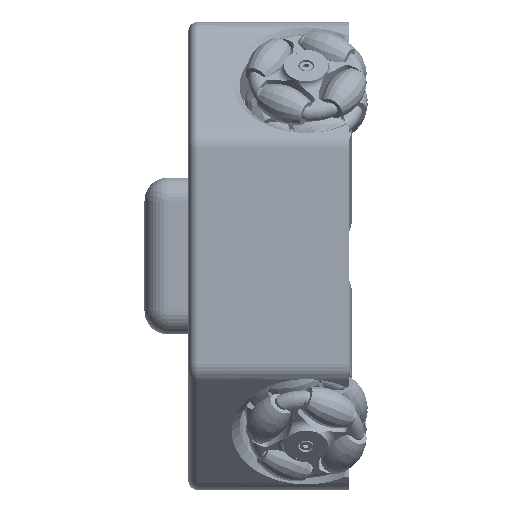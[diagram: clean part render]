
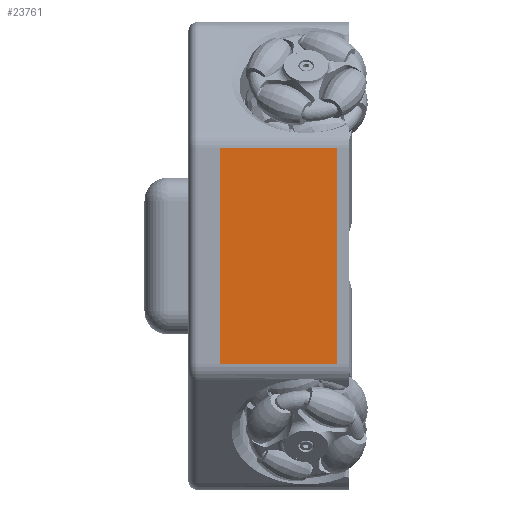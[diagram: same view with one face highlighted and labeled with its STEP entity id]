
A CAD part, left-side view. The second image highlights one B-rep face of the part: STEP entity #23761.
In plain terms, the highlighted planar face has unit normal (-1, 0, 0) as drawn and (1, 0, 0) by its records, which use the part's own axes.
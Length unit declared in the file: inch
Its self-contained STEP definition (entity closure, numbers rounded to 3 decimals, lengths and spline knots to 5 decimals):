
#1656=PLANE('',#25446);
#2916=FACE_OUTER_BOUND('',#4247,.T.);
#4247=EDGE_LOOP('',(#17229,#17230,#17231,#17232));
#6535=LINE('',#36083,#8062);
#6634=LINE('',#36513,#8161);
#6639=LINE('',#36524,#8166);
#6640=LINE('',#36525,#8167);
#8062=VECTOR('',#28376,0.3937);
#8161=VECTOR('',#28817,0.3937);
#8166=VECTOR('',#28832,0.3937);
#8167=VECTOR('',#28833,0.3937);
#11309=VERTEX_POINT('',#36080);
#11310=VERTEX_POINT('',#36082);
#11443=VERTEX_POINT('',#36510);
#11444=VERTEX_POINT('',#36512);
#13524=EDGE_CURVE('',#11309,#11310,#6535,.T.);
#13718=EDGE_CURVE('',#11443,#11444,#6634,.T.);
#13724=EDGE_CURVE('',#11310,#11443,#6639,.T.);
#13725=EDGE_CURVE('',#11444,#11309,#6640,.T.);
#17229=ORIENTED_EDGE('',*,*,#13718,.F.);
#17230=ORIENTED_EDGE('',*,*,#13724,.F.);
#17231=ORIENTED_EDGE('',*,*,#13524,.F.);
#17232=ORIENTED_EDGE('',*,*,#13725,.F.);
#23761=ADVANCED_FACE('',(#2916),#1656,.T.);
#25446=AXIS2_PLACEMENT_3D('',#36523,#28830,#28831);
#28376=DIRECTION('',(0.,-1.,0.));
#28817=DIRECTION('',(0.,1.,0.));
#28830=DIRECTION('center_axis',(1.,0.,0.));
#28831=DIRECTION('ref_axis',(0.,0.,-1.));
#28832=DIRECTION('',(0.,0.,1.));
#28833=DIRECTION('',(0.,0.,-1.));
#36080=CARTESIAN_POINT('',(3.73041,0.31496,-1.71822));
#36082=CARTESIAN_POINT('',(3.73041,-1.55512,-1.71822));
#36083=CARTESIAN_POINT('',(3.73041,0.,-1.71822));
#36510=CARTESIAN_POINT('',(3.73041,-1.55512,1.71822));
#36512=CARTESIAN_POINT('',(3.73041,0.31496,1.71822));
#36513=CARTESIAN_POINT('',(3.73041,0.,1.71822));
#36523=CARTESIAN_POINT('Origin',(3.73041,0.,1.87355));
#36524=CARTESIAN_POINT('',(3.73041,-1.55512,0.));
#36525=CARTESIAN_POINT('',(3.73041,0.31496,1.87355));
